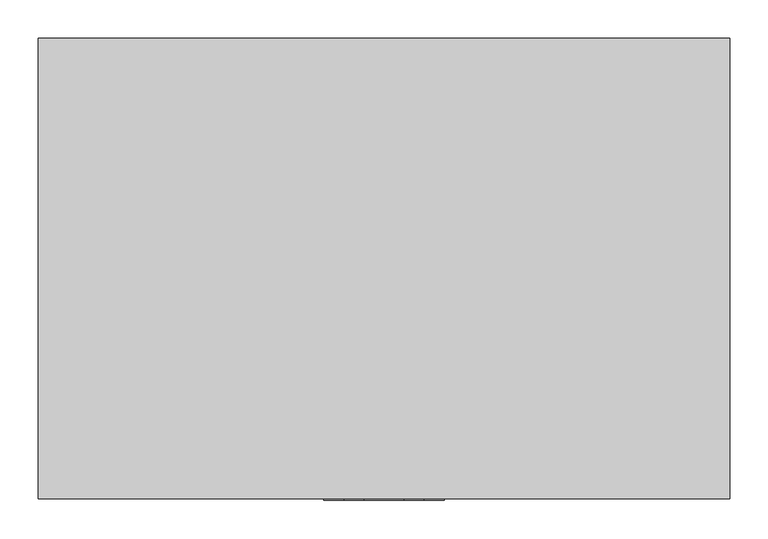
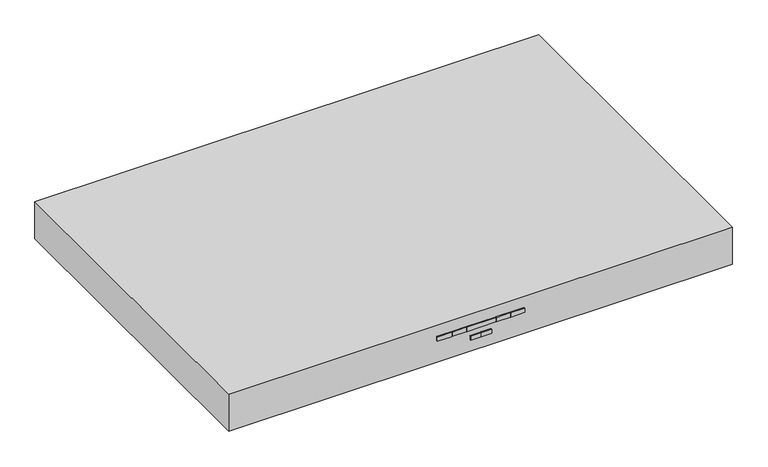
"""IFC4 building model written with IfcOpenShell, lengths in millimetres: proxy geometry, 10863270_RU_DA4208VD_EDST : 28420855_RU_10863270_DA4208VD_EDST."""

from ifc_helpers import new_model, si_unit, point, frame, frame_2d, origin, place, context, project, spatial, polyline, circle_curve, trimmed, segment, composite_curve, outline, extrude, faceted_brep, source, transform, mapped, element, save
from ifc_brep_helpers import plane_surface, cylinder_surface, revolved_surface, advanced_brep


def specialty_equipment_b4904531(model_context):
    return source(origin(), model_context, "Body", "SolidModel", [
        advanced_brep(
        [(-356.4370398, 170.0, 17.6175237), (-409.5629602, 170.0, 3.3824763), (-409.0453221, 170.0, 1.4506246), (-355.9194017, 170.0, 15.6856721), (-383.0, 170.0, 10.5), (-382.4823619, 170.0, 8.5681483)],
        [
            (0, 1, circle_curve(frame((-383.0, 170.0, 10.5), z_axis=(0.2588190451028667, 0.0, -0.9659258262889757), x_axis=(-0.9659258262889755, 0.0, -0.25881904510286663)), 27.5)),
            (1, 2),
            (2, 3, circle_curve(frame((-382.4823619, 170.0, 8.5681483), z_axis=(-0.2588190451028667, 0.0, 0.9659258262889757), x_axis=(-0.9659258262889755, 0.0, -0.25881904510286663)), 27.5)),
            (3, 0),
            (1, 0, circle_curve(frame((-383.0, 170.0, 10.5), z_axis=(0.2588190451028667, 0.0, -0.9659258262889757), x_axis=(-0.9659258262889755, 0.0, -0.25881904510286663)), 27.5)),
            (3, 2, circle_curve(frame((-382.4823619, 170.0, 8.5681483), z_axis=(-0.2588190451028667, 0.0, 0.9659258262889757), x_axis=(-0.9659258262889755, 0.0, -0.25881904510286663)), 27.5)),
            (4, 1),
            (0, 4),
            (2, 5),
            (5, 3),
        ],
        [
            cylinder_surface(frame((-383.0, 170.0, 10.5), z_axis=(-0.25881904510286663, 0.0, 0.9659258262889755), x_axis=(-0.9659258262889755, 0.0, -0.25881904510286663)), 27.5),
            plane_surface(frame((-383.0, 170.0, 10.5), z_axis=(-0.2588190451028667, 0.0, 0.9659258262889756), x_axis=(-0.9659258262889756, 0.0, -0.2588190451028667))),
            plane_surface(frame((-382.4823619, 170.0, 8.5681483), z_axis=(0.2588190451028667, 0.0, -0.9659258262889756), x_axis=(-0.9659258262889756, 0.0, -0.2588190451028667))),
        ],
        [
            (0, [[1, 2, 3, 4]]),
            (0, [[5, -4, 6, -2]]),
            (1, [[7, -1, 8]]),
            (1, [[-8, -5, -7]]),
            (2, [[-3, 9, 10]]),
            (2, [[-6, -10, -9]]),
        ],
    ),
        advanced_brep(
        [(-355.9194017, -170.0, 15.6856721), (-409.0453221, -170.0, 1.4506246), (-382.4823619, -170.0, 8.5681483), (-356.4370398, -170.0, 17.6175237), (-409.5629602, -170.0, 3.3824763), (-383.0, -170.0, 10.5)],
        [
            (0, 1, circle_curve(frame((-382.4823619, -170.0, 8.5681483), z_axis=(0.258819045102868, 0.0, -0.9659258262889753), x_axis=(-0.9659258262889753, 0.0, -0.258819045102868)), 27.5)),
            (1, 2),
            (2, 0),
            (1, 0, circle_curve(frame((-382.4823619, -170.0, 8.5681483), z_axis=(0.258819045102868, 0.0, -0.9659258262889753), x_axis=(-0.9659258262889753, 0.0, -0.258819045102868)), 27.5)),
            (3, 4, circle_curve(frame((-383.0, -170.0, 10.5), z_axis=(0.258819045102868, 0.0, -0.9659258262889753), x_axis=(-0.9659258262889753, 0.0, -0.258819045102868)), 27.5)),
            (4, 1),
            (0, 3),
            (4, 3, circle_curve(frame((-383.0, -170.0, 10.5), z_axis=(0.258819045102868, 0.0, -0.9659258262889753), x_axis=(-0.9659258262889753, 0.0, -0.258819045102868)), 27.5)),
            (5, 4),
            (3, 5),
        ],
        [
            plane_surface(frame((-382.4823619, -170.0, 8.5681483), z_axis=(0.258819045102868, 0.0, -0.9659258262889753), x_axis=(-0.9659258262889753, 0.0, -0.258819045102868))),
            cylinder_surface(frame((-383.0, -170.0, 10.5), z_axis=(-0.258819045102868, 0.0, 0.9659258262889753), x_axis=(-0.9659258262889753, 0.0, -0.258819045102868)), 27.5),
            plane_surface(frame((-383.0, -170.0, 10.5), z_axis=(-0.258819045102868, 0.0, 0.9659258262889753), x_axis=(-0.9659258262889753, 0.0, -0.258819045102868))),
        ],
        [
            (0, [[1, 2, 3]]),
            (0, [[4, -3, -2]]),
            (1, [[5, 6, -1, 7]]),
            (1, [[8, -7, -4, -6]]),
            (2, [[9, -5, 10]]),
            (2, [[-10, -8, -9]]),
        ],
    ),
        advanced_brep(
        [(356.4370398, 170.0, 17.6175237), (409.5629602, 170.0, 3.3824763), (409.0453221, 170.0, 1.4506246), (355.9194017, 170.0, 15.6856721), (355.471114, 170.0, 17.8763428), (410.528886, 170.0, 3.1236572), (354.9534759, 170.0, 15.9444911), (410.011248, 170.0, 1.1918056)],
        [
            (0, 1, circle_curve(frame((383.0, 170.0, 10.5), z_axis=(0.258819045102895, 0.0, 0.9659258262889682), x_axis=(0.965925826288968, 0.0, -0.25881904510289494)), 27.5)),
            (1, 2),
            (2, 3, circle_curve(frame((382.4823619, 170.0, 8.5681483), z_axis=(-0.258819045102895, 0.0, -0.9659258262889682), x_axis=(0.965925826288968, 0.0, -0.25881904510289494)), 27.5)),
            (3, 0),
            (1, 0, circle_curve(frame((383.0, 170.0, 10.5), z_axis=(0.258819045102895, 0.0, 0.9659258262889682), x_axis=(0.965925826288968, 0.0, -0.25881904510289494)), 27.5)),
            (3, 2, circle_curve(frame((382.4823619, 170.0, 8.5681483), z_axis=(-0.258819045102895, 0.0, -0.9659258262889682), x_axis=(0.965925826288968, 0.0, -0.25881904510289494)), 27.5)),
            (4, 5, circle_curve(frame((383.0, 170.0, 10.5), z_axis=(0.258819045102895, 0.0, 0.9659258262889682), x_axis=(0.965925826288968, 0.0, -0.25881904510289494)), 28.5)),
            (5, 1),
            (0, 4),
            (5, 4, circle_curve(frame((383.0, 170.0, 10.5), z_axis=(0.258819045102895, 0.0, 0.9659258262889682), x_axis=(0.965925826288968, 0.0, -0.25881904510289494)), 28.5)),
            (6, 7, circle_curve(frame((382.4823619, 170.0, 8.5681483), z_axis=(0.258819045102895, 0.0, 0.9659258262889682), x_axis=(0.965925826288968, 0.0, -0.25881904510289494)), 28.5)),
            (7, 5),
            (4, 6),
            (7, 6, circle_curve(frame((382.4823619, 170.0, 8.5681483), z_axis=(0.258819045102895, 0.0, 0.9659258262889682), x_axis=(0.965925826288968, 0.0, -0.25881904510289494)), 28.5)),
            (2, 7),
            (6, 3),
        ],
        [
            revolved_surface(polyline([(409.04532212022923, 170.0, 1.4506245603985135), (409.5629602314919, 170.0, 3.3824762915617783)]), (383.0, 170.0, 10.5), (-0.25881904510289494, 0.0, -0.965925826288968)),
            plane_surface(frame((383.0, 170.0, 10.5), z_axis=(0.258819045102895, 0.0, 0.9659258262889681), x_axis=(0.9659258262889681, 0.0, -0.258819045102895))),
            cylinder_surface(frame((383.0, 170.0, 10.5), z_axis=(-0.25881904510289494, 0.0, -0.965925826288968), x_axis=(0.965925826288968, 0.0, -0.25881904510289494)), 28.5),
            plane_surface(frame((382.4823619, 170.0, 8.5681483), z_axis=(-0.258819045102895, 0.0, -0.9659258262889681), x_axis=(0.9659258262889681, 0.0, -0.258819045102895))),
        ],
        [
            (0, [[1, 2, 3, 4]]),
            (0, [[5, -4, 6, -2]]),
            (1, [[7, 8, -1, 9]]),
            (1, [[10, -9, -5, -8]]),
            (2, [[11, 12, -7, 13]]),
            (2, [[14, -13, -10, -12]]),
            (3, [[-3, 15, -11, 16]]),
            (3, [[-6, -16, -14, -15]]),
        ],
    ),
        advanced_brep(
        [(355.471114, -170.0, 17.8763428), (410.528886, -170.0, 3.1236572), (409.5629602, -170.0, 3.3824763), (356.4370398, -170.0, 17.6175237), (354.9534759, -170.0, 15.9444911), (410.011248, -170.0, 1.1918056), (355.9194017, -170.0, 15.6856721), (409.0453221, -170.0, 1.4506246)],
        [
            (0, 1, circle_curve(frame((383.0, -170.0, 10.5), z_axis=(0.25881904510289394, 0.0, 0.9659258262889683), x_axis=(0.9659258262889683, 0.0, -0.25881904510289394)), 28.5)),
            (1, 2),
            (2, 3, circle_curve(frame((383.0, -170.0, 10.5), z_axis=(-0.25881904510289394, 0.0, -0.9659258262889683), x_axis=(0.9659258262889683, 0.0, -0.25881904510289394)), 27.5)),
            (3, 0),
            (1, 0, circle_curve(frame((383.0, -170.0, 10.5), z_axis=(0.25881904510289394, 0.0, 0.9659258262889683), x_axis=(0.9659258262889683, 0.0, -0.25881904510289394)), 28.5)),
            (3, 2, circle_curve(frame((383.0, -170.0, 10.5), z_axis=(-0.25881904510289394, 0.0, -0.9659258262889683), x_axis=(0.9659258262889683, 0.0, -0.25881904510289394)), 27.5)),
            (4, 5, circle_curve(frame((382.4823619, -170.0, 8.5681483), z_axis=(0.25881904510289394, 0.0, 0.9659258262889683), x_axis=(0.9659258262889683, 0.0, -0.25881904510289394)), 28.5)),
            (5, 1),
            (0, 4),
            (5, 4, circle_curve(frame((382.4823619, -170.0, 8.5681483), z_axis=(0.25881904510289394, 0.0, 0.9659258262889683), x_axis=(0.9659258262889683, 0.0, -0.25881904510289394)), 28.5)),
            (6, 7, circle_curve(frame((382.4823619, -170.0, 8.5681483), z_axis=(0.25881904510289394, 0.0, 0.9659258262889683), x_axis=(0.9659258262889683, 0.0, -0.25881904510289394)), 27.5)),
            (7, 5),
            (4, 6),
            (7, 6, circle_curve(frame((382.4823619, -170.0, 8.5681483), z_axis=(0.25881904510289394, 0.0, 0.9659258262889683), x_axis=(0.9659258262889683, 0.0, -0.25881904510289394)), 27.5)),
            (2, 7),
            (6, 3),
        ],
        [
            plane_surface(frame((383.0, -170.0, 10.5), z_axis=(0.25881904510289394, 0.0, 0.9659258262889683), x_axis=(0.9659258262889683, 0.0, -0.25881904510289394))),
            cylinder_surface(frame((383.0, -170.0, 10.5), z_axis=(-0.25881904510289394, 0.0, -0.9659258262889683), x_axis=(0.9659258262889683, 0.0, -0.25881904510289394)), 28.5),
            plane_surface(frame((382.4823619, -170.0, 8.5681483), z_axis=(-0.25881904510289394, 0.0, -0.9659258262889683), x_axis=(0.9659258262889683, 0.0, -0.25881904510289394))),
            revolved_surface(polyline([(409.04532212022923, -170.0, 1.4506245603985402), (409.5629602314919, -170.0, 3.3824762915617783)]), (383.0, -170.0, 10.5), (-0.25881904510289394, 0.0, -0.9659258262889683)),
        ],
        [
            (0, [[1, 2, 3, 4]]),
            (0, [[5, -4, 6, -2]]),
            (1, [[7, 8, -1, 9]]),
            (1, [[10, -9, -5, -8]]),
            (2, [[11, 12, -7, 13]]),
            (2, [[14, -13, -10, -12]]),
            (3, [[-3, 15, -11, 16]]),
            (3, [[-6, -16, -14, -15]]),
        ],
    ),
        advanced_brep(
        [(-354.9534759, 170.0, 15.9444911), (-410.011248, 170.0, 1.1918056), (-409.0453221, 170.0, 1.4506246), (-355.9194017, 170.0, 15.6856721), (-355.471114, 170.0, 17.8763428), (-410.528886, 170.0, 3.1236572), (-356.4370398, 170.0, 17.6175237), (-409.5629602, 170.0, 3.3824763)],
        [
            (0, 1, circle_curve(frame((-382.4823619, 170.0, 8.5681483), z_axis=(0.2588190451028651, 0.0, -0.9659258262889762), x_axis=(-0.9659258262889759, 0.0, -0.258819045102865)), 28.5)),
            (1, 2),
            (2, 3, circle_curve(frame((-382.4823619, 170.0, 8.5681483), z_axis=(-0.2588190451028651, 0.0, 0.9659258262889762), x_axis=(-0.9659258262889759, 0.0, -0.258819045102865)), 27.5)),
            (3, 0),
            (1, 0, circle_curve(frame((-382.4823619, 170.0, 8.5681483), z_axis=(0.2588190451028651, 0.0, -0.9659258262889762), x_axis=(-0.9659258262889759, 0.0, -0.258819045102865)), 28.5)),
            (3, 2, circle_curve(frame((-382.4823619, 170.0, 8.5681483), z_axis=(-0.2588190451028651, 0.0, 0.9659258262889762), x_axis=(-0.9659258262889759, 0.0, -0.258819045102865)), 27.5)),
            (4, 5, circle_curve(frame((-383.0, 170.0, 10.5), z_axis=(0.2588190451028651, 0.0, -0.9659258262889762), x_axis=(-0.9659258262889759, 0.0, -0.258819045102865)), 28.5)),
            (5, 1),
            (0, 4),
            (5, 4, circle_curve(frame((-383.0, 170.0, 10.5), z_axis=(0.2588190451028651, 0.0, -0.9659258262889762), x_axis=(-0.9659258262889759, 0.0, -0.258819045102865)), 28.5)),
            (6, 7, circle_curve(frame((-383.0, 170.0, 10.5), z_axis=(0.2588190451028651, 0.0, -0.9659258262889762), x_axis=(-0.9659258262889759, 0.0, -0.258819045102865)), 27.5)),
            (7, 5),
            (4, 6),
            (7, 6, circle_curve(frame((-383.0, 170.0, 10.5), z_axis=(0.2588190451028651, 0.0, -0.9659258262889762), x_axis=(-0.9659258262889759, 0.0, -0.258819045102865)), 27.5)),
            (2, 7),
            (6, 3),
        ],
        [
            plane_surface(frame((-382.4823619, 170.0, 8.5681483), z_axis=(0.2588190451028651, 0.0, -0.965925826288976), x_axis=(-0.965925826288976, 0.0, -0.2588190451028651))),
            cylinder_surface(frame((-383.0, 170.0, 10.5), z_axis=(-0.258819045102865, 0.0, 0.9659258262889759), x_axis=(-0.9659258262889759, 0.0, -0.258819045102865)), 28.5),
            plane_surface(frame((-383.0, 170.0, 10.5), z_axis=(-0.2588190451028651, 0.0, 0.965925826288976), x_axis=(-0.965925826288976, 0.0, -0.2588190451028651))),
            revolved_surface(polyline([(-409.5629602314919, 170.0, 3.3824762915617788), (-409.0453221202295, 170.0, 1.4506245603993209)]), (-383.0, 170.0, 10.5), (-0.258819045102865, 0.0, 0.9659258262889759)),
        ],
        [
            (0, [[1, 2, 3, 4]]),
            (0, [[5, -4, 6, -2]]),
            (1, [[7, 8, -1, 9]]),
            (1, [[10, -9, -5, -8]]),
            (2, [[11, 12, -7, 13]]),
            (2, [[14, -13, -10, -12]]),
            (3, [[-3, 15, -11, 16]]),
            (3, [[-6, -16, -14, -15]]),
        ],
    ),
        advanced_brep(
        [(-356.4370398, -170.0, 17.6175237), (-409.5629602, -170.0, 3.3824763), (-410.528886, -170.0, 3.1236572), (-355.471114, -170.0, 17.8763428), (-355.9194017, -170.0, 15.6856721), (-409.0453221, -170.0, 1.4506246), (-354.9534759, -170.0, 15.9444911), (-410.011248, -170.0, 1.1918056)],
        [
            (0, 1, circle_curve(frame((-383.0, -170.0, 10.5), z_axis=(0.2588190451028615, 0.0, -0.9659258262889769), x_axis=(-0.9659258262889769, 0.0, -0.2588190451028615)), 27.5)),
            (1, 2),
            (2, 3, circle_curve(frame((-383.0, -170.0, 10.5), z_axis=(-0.2588190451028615, 0.0, 0.9659258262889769), x_axis=(-0.9659258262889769, 0.0, -0.2588190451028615)), 28.5)),
            (3, 0),
            (1, 0, circle_curve(frame((-383.0, -170.0, 10.5), z_axis=(0.2588190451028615, 0.0, -0.9659258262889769), x_axis=(-0.9659258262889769, 0.0, -0.2588190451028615)), 27.5)),
            (3, 2, circle_curve(frame((-383.0, -170.0, 10.5), z_axis=(-0.2588190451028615, 0.0, 0.9659258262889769), x_axis=(-0.9659258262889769, 0.0, -0.2588190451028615)), 28.5)),
            (4, 5, circle_curve(frame((-382.4823619, -170.0, 8.5681483), z_axis=(0.2588190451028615, 0.0, -0.9659258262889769), x_axis=(-0.9659258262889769, 0.0, -0.2588190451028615)), 27.5)),
            (5, 1),
            (0, 4),
            (5, 4, circle_curve(frame((-382.4823619, -170.0, 8.5681483), z_axis=(0.2588190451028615, 0.0, -0.9659258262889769), x_axis=(-0.9659258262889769, 0.0, -0.2588190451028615)), 27.5)),
            (6, 7, circle_curve(frame((-382.4823619, -170.0, 8.5681483), z_axis=(0.2588190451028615, 0.0, -0.9659258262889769), x_axis=(-0.9659258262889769, 0.0, -0.2588190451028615)), 28.5)),
            (7, 5),
            (4, 6),
            (7, 6, circle_curve(frame((-382.4823619, -170.0, 8.5681483), z_axis=(0.2588190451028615, 0.0, -0.9659258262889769), x_axis=(-0.9659258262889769, 0.0, -0.2588190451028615)), 28.5)),
            (2, 7),
            (6, 3),
        ],
        [
            plane_surface(frame((-383.0, -170.0, 10.5), z_axis=(-0.2588190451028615, 0.0, 0.9659258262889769), x_axis=(-0.9659258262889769, 0.0, -0.2588190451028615))),
            revolved_surface(polyline([(-409.5629602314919, -170.0, 3.3824762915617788), (-409.0453221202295, -170.0, 1.4506245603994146)]), (-383.0, -170.0, 10.5), (-0.2588190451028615, 0.0, 0.9659258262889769)),
            plane_surface(frame((-382.4823619, -170.0, 8.5681483), z_axis=(0.2588190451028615, 0.0, -0.9659258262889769), x_axis=(-0.9659258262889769, 0.0, -0.2588190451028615))),
            cylinder_surface(frame((-383.0, -170.0, 10.5), z_axis=(-0.2588190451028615, 0.0, 0.9659258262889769), x_axis=(-0.9659258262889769, 0.0, -0.2588190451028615)), 28.5),
        ],
        [
            (0, [[1, 2, 3, 4]]),
            (0, [[5, -4, 6, -2]]),
            (1, [[7, 8, -1, 9]]),
            (1, [[10, -9, -5, -8]]),
            (2, [[11, 12, -7, 13]]),
            (2, [[14, -13, -10, -12]]),
            (3, [[-3, 15, -11, 16]]),
            (3, [[-6, -16, -14, -15]]),
        ],
    ),
        extrude(outline(polyline([(325.0, 256.0), (325.0, -256.0), (120.3333333, -256.0), (120.3333333, 256.0), (325.0, 256.0)])), frame((0.0, 0.0, 6.5), z_axis=(0.0, 0.0, 1.0), x_axis=(1.0, 0.0, 0.0)), (0.0, 0.0, 1.0), 6.0),
        extrude(outline(polyline([(102.3333333, 256.0), (102.3333333, -256.0), (-102.3333333, -256.0), (-102.3333333, 256.0), (102.3333333, 256.0)])), frame((0.0, 0.0, 6.5), z_axis=(0.0, 0.0, 1.0), x_axis=(1.0, 0.0, 0.0)), (0.0, 0.0, 1.0), 6.0),
        extrude(outline(polyline([(-120.3333333, 256.0), (-120.3333333, -256.0), (-325.0, -256.0), (-325.0, 256.0), (-120.3333333, 256.0)])), frame((0.0, 0.0, 6.5), z_axis=(0.0, 0.0, 1.0), x_axis=(1.0, 0.0, 0.0)), (0.0, 0.0, 1.0), 6.0),
        extrude(outline(polyline([(334.0, 265.0), (334.0, -265.0), (111.3333333, -265.0), (111.3333333, 265.0), (334.0, 265.0)]), holes=[polyline([(325.0, 256.0), (120.3333333, 256.0), (120.3333333, -256.0), (325.0, -256.0), (325.0, 256.0)])]), frame((0.0, 0.0, 5.0), z_axis=(0.0, 0.0, 1.0), x_axis=(1.0, 0.0, 0.0)), (0.0, 0.0, 1.0), 9.0),
        extrude(outline(polyline([(111.3333333, 265.0), (111.3333333, -265.0), (-111.3333333, -265.0), (-111.3333333, 265.0), (111.3333333, 265.0)]), holes=[polyline([(102.3333333, 256.0), (-102.3333333, 256.0), (-102.3333333, -256.0), (102.3333333, -256.0), (102.3333333, 256.0)])]), frame((0.0, 0.0, 5.0), z_axis=(0.0, 0.0, 1.0), x_axis=(1.0, 0.0, 0.0)), (0.0, 0.0, 1.0), 9.0),
        extrude(outline(polyline([(-111.3333333, 265.0), (-111.3333333, -265.0), (-334.0, -265.0), (-334.0, 265.0), (-111.3333333, 265.0)]), holes=[polyline([(-120.3333333, 256.0), (-325.0, 256.0), (-325.0, -256.0), (-120.3333333, -256.0), (-120.3333333, 256.0)])]), frame((0.0, 0.0, 5.0), z_axis=(0.0, 0.0, 1.0), x_axis=(1.0, 0.0, 0.0)), (0.0, 0.0, 1.0), 9.0),
        extrude(outline(polyline([(239.1666667, -213.0), (239.1666667, -256.0), (206.1666667, -256.0), (206.1666667, -213.0), (239.1666667, -213.0)]), holes=[polyline([(213.1666667, -249.0), (232.1666667, -249.0), (232.1666667, -220.0), (213.1666667, -220.0), (213.1666667, -249.0)])]), frame((0.0, 0.0, 12.5), z_axis=(0.0, 0.0, 1.0), x_axis=(1.0, 0.0, 0.0)), (0.0, 0.0, 1.0), 1.5),
        extrude(outline(polyline([(16.5, -213.0), (16.5, -256.0), (-16.5, -256.0), (-16.5, -213.0), (16.5, -213.0)]), holes=[polyline([(-9.5, -220.0), (-9.5, -249.0), (9.5, -249.0), (9.5, -220.0), (-9.5, -220.0)])]), frame((0.0, 0.0, 12.5), z_axis=(0.0, 0.0, 1.0), x_axis=(1.0, 0.0, 0.0)), (0.0, 0.0, 1.0), 1.5),
        extrude(outline(polyline([(-206.1666667, -213.0), (-206.1666667, -256.0), (-239.1666667, -256.0), (-239.1666667, -213.0), (-206.1666667, -213.0)]), holes=[polyline([(-213.1666667, -220.0), (-232.1666667, -220.0), (-232.1666667, -249.0), (-213.1666667, -249.0), (-213.1666667, -220.0)])]), frame((0.0, 0.0, 12.5), z_axis=(0.0, 0.0, 1.0), x_axis=(1.0, 0.0, 0.0)), (0.0, 0.0, 1.0), 1.5),
        extrude(outline(polyline([(0.3, -299.0), (19.0, -299.0), (19.0, -301.0), (0.3, -301.0), (0.3, -299.0)])), frame((0.0, 0.0, 22.0), z_axis=(0.0, 0.0, 1.0), x_axis=(1.0, 0.0, 0.0)), (0.0, 0.0, 1.0), 8.0),
        extrude(outline(polyline([(-19.0, -299.0), (-0.3, -299.0), (-0.3, -301.0), (-19.0, -301.0), (-19.0, -299.0)])), frame((0.0, 0.0, 22.0), z_axis=(0.0, 0.0, 1.0), x_axis=(1.0, 0.0, 0.0)), (0.0, 0.0, 1.0), 8.0),
        extrude(outline(polyline([(52.5, -299.0), (78.0, -299.0), (78.0, -301.0), (52.5, -301.0), (52.5, -299.0)])), frame((0.0, 0.0, 41.0), z_axis=(0.0, 0.0, 1.0), x_axis=(1.0, 0.0, 0.0)), (0.0, 0.0, 1.0), 8.0),
        extrude(outline(polyline([(-78.0, -299.0), (-52.5, -299.0), (-52.5, -301.0), (-78.0, -301.0), (-78.0, -299.0)])), frame((0.0, 0.0, 41.0), z_axis=(0.0, 0.0, 1.0), x_axis=(1.0, 0.0, 0.0)), (0.0, 0.0, 1.0), 8.0),
        extrude(outline(polyline([(-52.0, -299.0), (-26.5, -299.0), (-26.5, -301.0), (-52.0, -301.0), (-52.0, -299.0)])), frame((0.0, 0.0, 41.0), z_axis=(0.0, 0.0, 1.0), x_axis=(1.0, 0.0, 0.0)), (0.0, 0.0, 1.0), 8.0),
        extrude(outline(polyline([(26.5, -299.0), (52.0, -299.0), (52.0, -301.0), (26.5, -301.0), (26.5, -299.0)])), frame((0.0, 0.0, 41.0), z_axis=(0.0, 0.0, 1.0), x_axis=(1.0, 0.0, 0.0)), (0.0, 0.0, 1.0), 8.0),
        extrude(outline(polyline([(-26.0, -299.0), (26.0, -299.0), (26.0, -301.0), (-26.0, -301.0), (-26.0, -299.0)])), frame((0.0, 0.0, 41.0), z_axis=(0.0, 0.0, 1.0), x_axis=(1.0, 0.0, 0.0)), (0.0, 0.0, 1.0), 8.0),
        extrude(outline(composite_curve([segment(polyline([(19.0, -415.0), (2.0, -415.0), (18.4833395, -353.4833395), (2.5, -337.5)]), True, "CONTINUOUS"), segment(trimmed(circle_curve(frame_2d((4.125934, -336.1254003)), 2.1291279), [point((2.5, -337.5))], [point((4.0, -334.0))], False, "CARTESIAN"), True, "CONTINUOUS"), segment(polyline([(4.0, -334.0), (19.0, -334.0), (19.0, -415.0)]), True, "CONTINUOUS")], self_intersect=False)), frame((0.0, -265.0, 0.0), z_axis=(0.0, 1.0, 0.0), x_axis=(0.0, 0.0, 1.0)), (0.0, 0.0, 1.0), 530.0),
        extrude(outline(composite_curve([segment(polyline([(19.0, 415.0), (19.0, 334.0), (4.0, 334.0)]), True, "CONTINUOUS"), segment(trimmed(circle_curve(frame_2d((4.125934, 336.1254003)), 2.1291279), [point((4.0, 334.0))], [point((2.5, 337.5))], False, "CARTESIAN"), True, "CONTINUOUS"), segment(polyline([(2.5, 337.5), (18.4833395, 353.4833395), (2.0, 415.0), (19.0, 415.0)]), True, "CONTINUOUS")], self_intersect=False)), frame((0.0, -265.0, 0.0), z_axis=(0.0, 1.0, 0.0), x_axis=(0.0, 0.0, 1.0)), (0.0, 0.0, 1.0), 530.0),
        faceted_brep([(449.0, 299.0, 70.0), (-449.0, 299.0, 70.0), (-449.0, -299.0, 70.0), (449.0, -299.0, 70.0), (449.0, 299.0, 0.0), (449.0, -299.0, 0.0), (-449.0, -299.0, 0.0), (-449.0, 299.0, 0.0), (415.0, 265.0, 0.0), (-415.0, 265.0, 0.0), (-415.0, -265.0, 0.0), (415.0, -265.0, 0.0), (415.0, 265.0, 19.0), (415.0, -265.0, 19.0), (-415.0, -265.0, 19.0), (-415.0, 265.0, 19.0)], [[[0, 1, 2, 3]], [[4, 5, 6, 7], [8, 9, 10, 11]], [[1, 0, 4, 7]], [[2, 1, 7, 6]], [[3, 2, 6, 5]], [[0, 3, 5, 4]], [[12, 13, 14, 15]], [[12, 15, 9, 8]], [[15, 14, 10, 9]], [[14, 13, 11, 10]], [[13, 12, 8, 11]]]),
    ])


if __name__ == "__main__":
    model = new_model("IFC4")
    model_context = context("Model", 3, world=origin())
    ifc_project = project(units=[si_unit("LENGTHUNIT", "METRE", prefix="MILLI")], contexts=[model_context])
    site = spatial("IfcSite", under=ifc_project)
    building = spatial("IfcBuilding", under=site)
    placement = place(None, origin())
    specialty_equipment_shape = specialty_equipment_b4904531(model_context)
    element("IfcBuildingElementProxy", 1, Name="10863270_RU_DA4208VD_EDST : 28420855_RU_10863270_DA4208VD_EDST", ObjectType="10863270_RU_DA4208VD_EDST : 28420855_RU_10863270_DA4208VD_EDST", at=placement, inside=building, context=model_context, shape_type="MappedRepresentation", body=[
        mapped(specialty_equipment_shape, transform((0.0, 0.0, 0.0), x_axis=(1.0, 0.0, 0.0), y_axis=(0.0, 1.0, 0.0), z_axis=(0.0, 0.0, 1.0))),
    ])
    save(model, "model.ifc")
